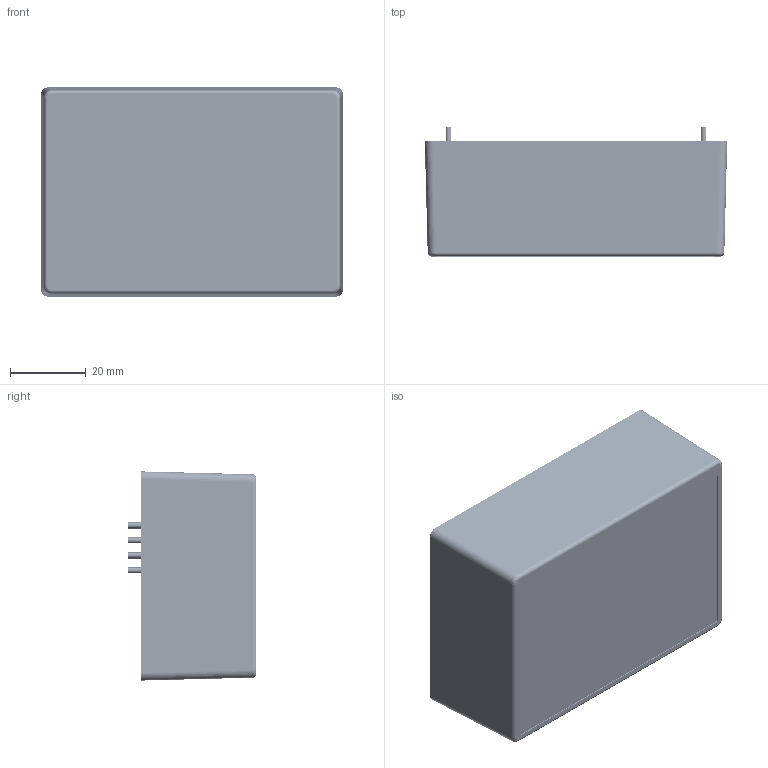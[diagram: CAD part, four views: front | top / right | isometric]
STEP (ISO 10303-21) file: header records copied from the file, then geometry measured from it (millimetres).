
FILE_DESCRIPTION (( 'STEP AP203' ), '1' );
FILE_NAME ('CFM50M(S)XXX-E ¦¨«~¹Ï M-B130-F (V1.1)-20250310.STEP', '2025-03-10T00:52:09', ( 'cincon' ), ( '' ), 'SwSTEP 2.0', 'SolidWorks 2020', '' );
FILE_SCHEMA (( 'CONFIG_CONTROL_DESIGN' ));
Length unit declared in the file: millimetre
Products named in the file (26): CFM70SXXX-P 2023.03.01; RM-10-CASE-3P示意圖2020.12.11; M3螺絲和華司6mm 2020.12.14; CFM80S 散熱片40x22mm  T=2.0mmG6611530412(M-B103-00-J); CFM50S-XXX CLASS I遮蔽示意圖2022.07.27; CFM70MXXX變壓器示意圖2020.12.11; CFM70MXXX  CY1電容示意圖2020.12.11; ､鎹IN-(ｩl)-1070104; CFM70MXXX  T2A電容示意圖2020.12.11; CFM50(70)SXXX-E CASE[M-B504-M]G5689132112(V1.0); TR70M 散熱片2 G6612470123 (M-B142-00-J)-1070126; CFM70MXXX  Z1電容示意圖2020.12.11; CFM50M(S)XXX-E 成品圖 M-B130-F (V1.1)-20250310; CFM70MXXX  CY3電容示意圖2020.12.11; CFM70SXXX-P PCB示意圖2023.03.01; ､鎹INA; 18mm,26.mm電容示意圖2020.12.11; CFM70MXXX CORE L2示意圖2020.12.14; CFM70MXXX橋式整流器電晶體示意圖2020.12.14; 電晶體10mm 19.4mm 2020.12.14; 螺母M3xP0.5(M-B006-00-S)G7801010101; CFM70MXXX  CY6電容示意圖2020.12.11; CFM80S 散熱片40x22mm  T=2.0mmG6611530412(M-B103-00-J).SLDPRT; CFM70MXXX CORE L1示意圖2020.12.11; CFM50(70)SXXX-E六角銅柱9.2mm[M-B129-P]G75M9470185(V1.0) 2022.08.09
Assembly tree (32 placements, depth 4):
  CFM50M(S)XXX-E 成品圖 M-B130-F (V1.1)-20250310
    CFM50(70)SXXX-E CASE[M-B504-M]G5689132112(V1.0)
    CFM70SXXX-P 2023.03.01
      CFM70SXXX-P PCB示意圖2023.03.01
      RM-10-CASE-3P示意圖2020.12.11
      CFM70MXXX變壓器示意圖2020.12.11
      CFM70MXXX CORE L2示意圖2020.12.14
      18mm,26.mm電容示意圖2020.12.11
      CFM70MXXX  CY1電容示意圖2020.12.11  x3
      CFM70MXXX  CY3電容示意圖2020.12.11  x2
      CFM70MXXX  CY6電容示意圖2020.12.11
      CFM70MXXX  T2A電容示意圖2020.12.11
      CFM70MXXX  Z1電容示意圖2020.12.11
      CFM70MXXX CORE L1示意圖2020.12.11
      TR70M 散熱片2 G6612470123 (M-B142-00-J)-1070126
        TR70M 散熱片2 G6612470123 (M-B142-00-J)-1070126
        ､鎹IN-(ｩl)-1070104
      M3螺絲和華司6mm 2020.12.14  x2
      電晶體10mm 19.4mm 2020.12.14  x2
      CFM80S 散熱片40x22mm  T=2.0mmG6611530412(M-B103-00-J).SLDPRT
        CFM80S 散熱片40x22mm  T=2.0mmG6611530412(M-B103-00-J)
        ､鎹INA
      CFM70MXXX橋式整流器電晶體示意圖2020.12.14
    CFM50(70)SXXX-E六角銅柱9.2mm[M-B129-P]G75M9470185(V1.0) 2022.08.09  x2
    螺母M3xP0.5(M-B006-00-S)G7801010101  x2
    CFM50S-XXX CLASS I遮蔽示意圖2022.07.27
Bounding box: 79.8 x 34 x 55.2 mm (x, y, z)
Volume: 54556.2 mm3; surface area: 72330.7 mm2
Topology: 121 solids, 152 shells, 2953 faces, 7623 edges, 4963 vertices
Faces by surface type: cylinder 1285, plane 1039, torus 357, bspline 168, cone 104
Entity records: 102486 total; most frequent: CARTESIAN_POINT 35550, DIRECTION 13969, ORIENTED_EDGE 13198, EDGE_CURVE 6603, AXIS2_PLACEMENT_3D 5578, VERTEX_POINT 4325, CIRCLE 3063, EDGE_LOOP 2936
